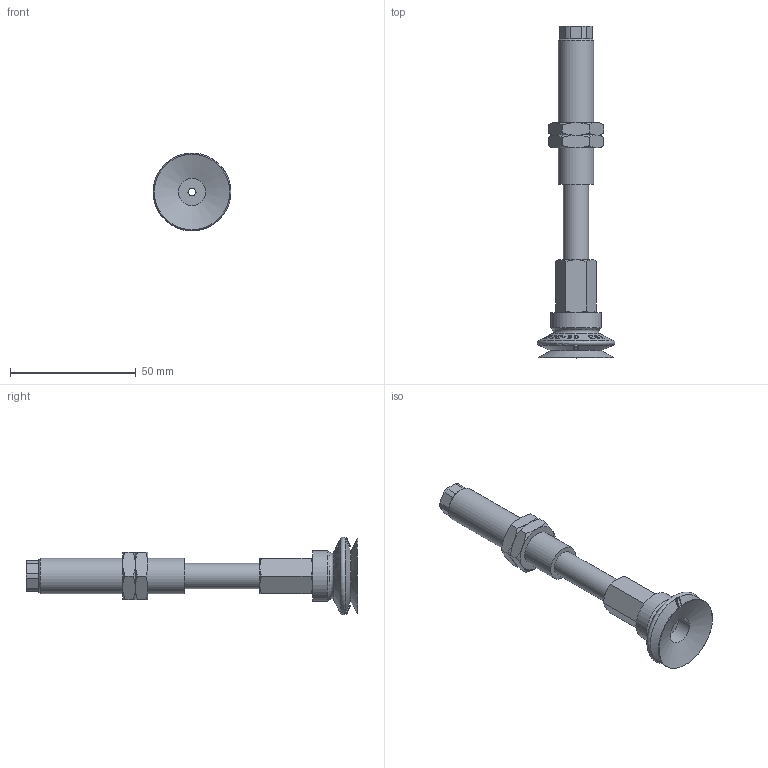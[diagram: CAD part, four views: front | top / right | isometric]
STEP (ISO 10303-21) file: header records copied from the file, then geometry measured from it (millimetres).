
FILE_DESCRIPTION(('STEP AP214'),'1');
FILE_NAME('.stp','2026-01-21T05:22:41',(' '),(' '),'Spatial InterOp 3D',' ',' ');
FILE_SCHEMA(('AUTOMOTIVE_DESIGN { 1 0 10303 214 1 1 1 1 }'));
Length unit declared in the file: millimetre
Products named in the file (7): BNABPJTS-30-30-※; ADAPTER; NAPJTS-30-30-MBODY; BPJG-30-※; Adapter-30-NAPJ; NUT-NAPJ-30-30-s; NAPJTS-30-30-FBODY
Assembly tree (7 placements, depth 2):
  BNABPJTS-30-30-※
    ADAPTER
    NAPJTS-30-30-MBODY
    BPJG-30-※
    Adapter-30-NAPJ
    NUT-NAPJ-30-30-s  x2
    NAPJTS-30-30-FBODY
Bounding box: 30.99 x 132 x 30.99 mm (x, y, z)
Volume: 22296.7 mm3; surface area: 16070.4 mm2
Topology: 7 solids, 7 shells, 770 faces, 2142 edges, 1407 vertices
Faces by surface type: plane 667, cone 67, cylinder 29, torus 7
Full cylindrical faces by diameter (mm): 3 x3, 4.134 x1, 4.917 x1, 5.8 x1, 6 x1, 10 x2, 10.8 x1, 11 x1, 13.188 x2, 14 x1, 20 x1
Entity records: 30849 total; most frequent: CARTESIAN_POINT 7682, ORIENTED_EDGE 4118, DIRECTION 2587, EDGE_CURVE 2059, VERTEX_POINT 1374, B_SPLINE_CURVE_WITH_KNOTS 1084, LINE 873, VECTOR 873
